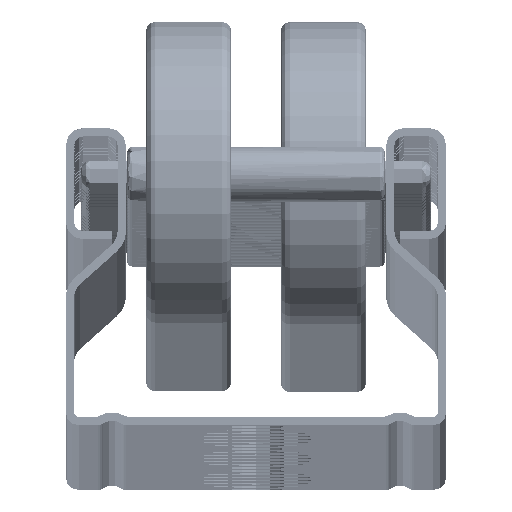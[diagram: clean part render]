
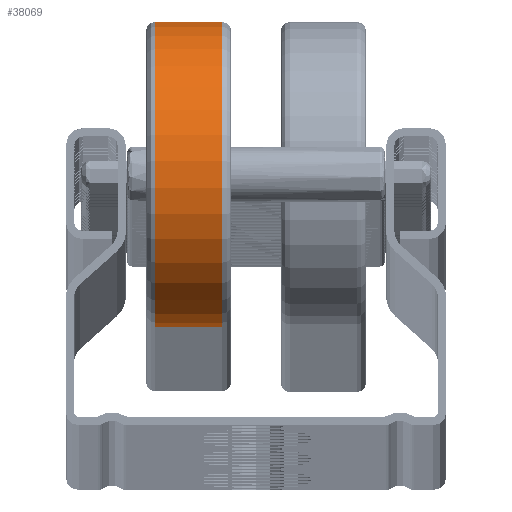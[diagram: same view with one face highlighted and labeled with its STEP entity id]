
A CAD part, top view. The second image highlights one B-rep face of the part: STEP entity #38069.
In plain terms, the highlighted cylindrical face has radius 16.5 mm (diameter 33 mm), a partial arc.
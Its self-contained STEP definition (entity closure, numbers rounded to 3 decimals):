
#237 = AXIS2_PLACEMENT_3D ( 'NONE', #122082, #27391, #156106 ) ;
#4399 = AXIS2_PLACEMENT_3D ( 'NONE', #194593, #195287, #80666 ) ;
#13682 = DIRECTION ( 'NONE',  ( 0., 0., -1. ) ) ;
#19649 = AXIS2_PLACEMENT_3D ( 'NONE', #44054, #110491, #31263 ) ;
#20920 = FACE_OUTER_BOUND ( 'NONE', #72109, .T. ) ;
#27391 = DIRECTION ( 'NONE',  ( 0., 0., -1. ) ) ;
#30517 = EDGE_CURVE ( 'NONE', #83707, #62608, #84905, .T. ) ;
#31263 = DIRECTION ( 'NONE',  ( -1., 0., 0. ) ) ;
#32391 = DIRECTION ( 'NONE',  ( 0., 0., -1. ) ) ;
#38069 = ADVANCED_FACE ( 'NONE', ( #20920 ), #66553, .T. ) ;
#41813 = LINE ( 'NONE', #147648, #112620 ) ;
#44054 = CARTESIAN_POINT ( 'NONE',  ( 0., 0., 9.2 ) ) ;
#49669 = CARTESIAN_POINT ( 'NONE',  ( 16.5, 0., 1. ) ) ;
#50729 = CIRCLE ( 'NONE', #4399, 16.5 ) ;
#57850 = CARTESIAN_POINT ( 'NONE',  ( -16.5, 0., 1. ) ) ;
#60720 = VERTEX_POINT ( 'NONE', #57850 ) ;
#62608 = VERTEX_POINT ( 'NONE', #49669 ) ;
#66553 = CYLINDRICAL_SURFACE ( 'NONE', #19649, 16.5 ) ;
#67324 = EDGE_CURVE ( 'NONE', #165128, #60720, #41813, .T. ) ;
#72109 = EDGE_LOOP ( 'NONE', ( #188981, #200529, #112694, #161538 ) ) ;
#80666 = DIRECTION ( 'NONE',  ( 1., 0., 0. ) ) ;
#83707 = VERTEX_POINT ( 'NONE', #134918 ) ;
#84905 = LINE ( 'NONE', #160121, #133065 ) ;
#110491 = DIRECTION ( 'NONE',  ( 0., 0., -1. ) ) ;
#112620 = VECTOR ( 'NONE', #32391, 1000. ) ;
#112694 = ORIENTED_EDGE ( 'NONE', *, *, #67324, .T. ) ;
#115181 = CIRCLE ( 'NONE', #237, 16.5 ) ;
#122082 = CARTESIAN_POINT ( 'NONE',  ( 0., 0., 8.2 ) ) ;
#133012 = CARTESIAN_POINT ( 'NONE',  ( -16.5, 0., 8.2 ) ) ;
#133065 = VECTOR ( 'NONE', #13682, 1000. ) ;
#134918 = CARTESIAN_POINT ( 'NONE',  ( 16.5, 0., 8.2 ) ) ;
#140746 = EDGE_CURVE ( 'NONE', #83707, #165128, #115181, .T. ) ;
#147648 = CARTESIAN_POINT ( 'NONE',  ( -16.5, 0., 9.2 ) ) ;
#156106 = DIRECTION ( 'NONE',  ( 1., 0., 0. ) ) ;
#160121 = CARTESIAN_POINT ( 'NONE',  ( 16.5, 0., 9.2 ) ) ;
#161538 = ORIENTED_EDGE ( 'NONE', *, *, #183387, .T. ) ;
#165128 = VERTEX_POINT ( 'NONE', #133012 ) ;
#183387 = EDGE_CURVE ( 'NONE', #60720, #62608, #50729, .T. ) ;
#188981 = ORIENTED_EDGE ( 'NONE', *, *, #30517, .F. ) ;
#194593 = CARTESIAN_POINT ( 'NONE',  ( 0., 0., 1. ) ) ;
#195287 = DIRECTION ( 'NONE',  ( 0., 0., 1. ) ) ;
#200529 = ORIENTED_EDGE ( 'NONE', *, *, #140746, .T. ) ;
